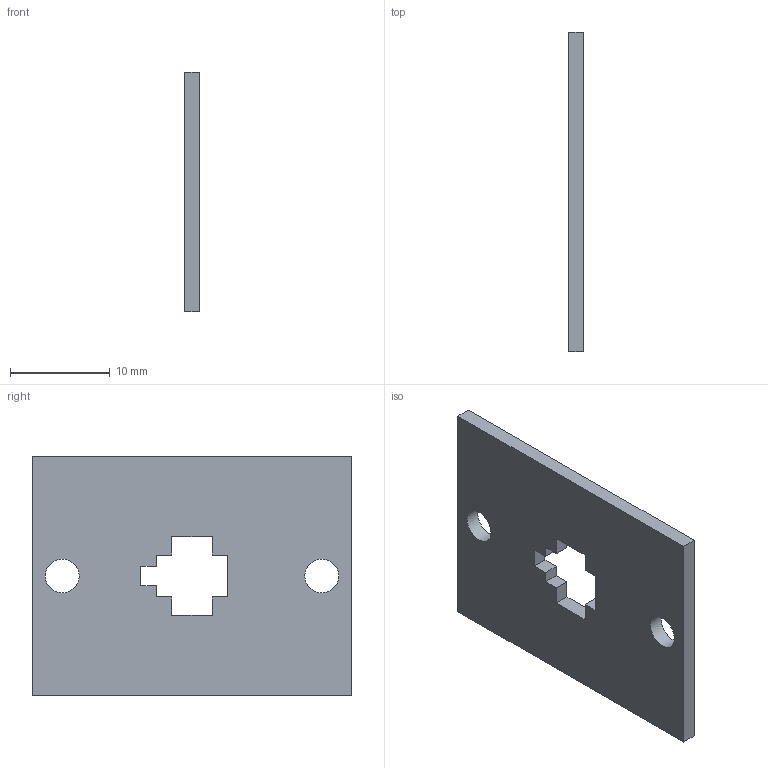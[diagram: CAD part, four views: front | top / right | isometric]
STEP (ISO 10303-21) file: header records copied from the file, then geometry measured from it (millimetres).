
FILE_DESCRIPTION(('Open CASCADE Model'),'2;1');
FILE_NAME('Open CASCADE Shape Model','2026-10-05T13:24:20',('Author'),( 'Open CASCADE'),'Open CASCADE STEP processor 7.8','Open CASCADE 7.8' ,'Unknown');
FILE_SCHEMA(('AUTOMOTIVE_DESIGN { 1 0 10303 214 1 1 1 1 }'));
Length unit declared in the file: millimetre
Products named in the file (1): Open CASCADE STEP translator 7.8 14
Bounding box: 1.5 x 32 x 24 mm (x, y, z)
Volume: 1052.7 mm3; surface area: 1653.5 mm2
Topology: 1 solids, 1 shells, 24 faces, 66 edges, 44 vertices
Faces by surface type: plane 22, cylinder 2
Full cylindrical faces by diameter (mm): 3.4 x2
Entity records: 1582 total; most frequent: CARTESIAN_POINT 355, DIRECTION 184, ORIENTED_EDGE 132, PCURVE 132, DEFINITIONAL_REPRESENTATION 132, LINE 126, VECTOR 126, EDGE_CURVE 66
